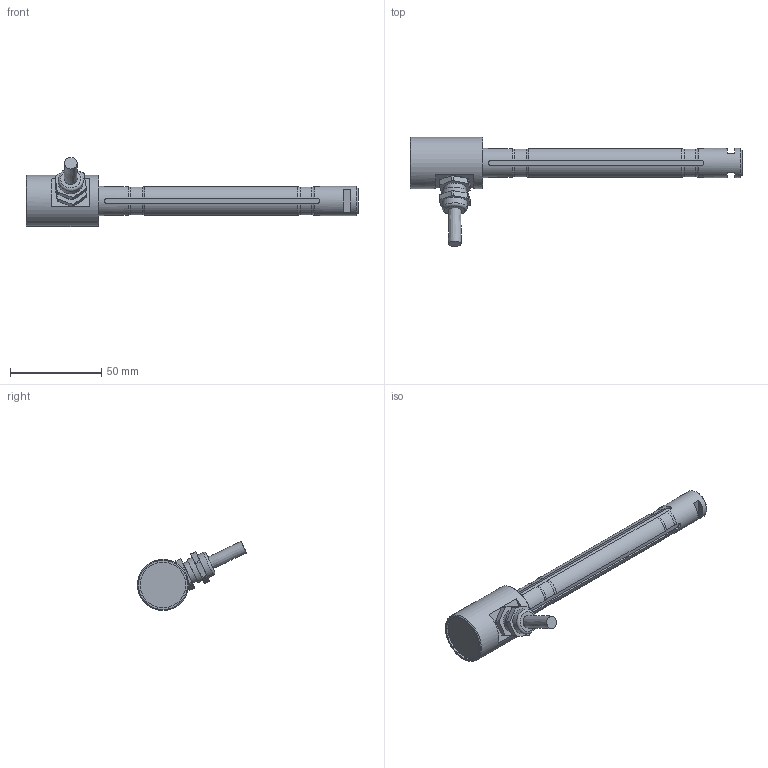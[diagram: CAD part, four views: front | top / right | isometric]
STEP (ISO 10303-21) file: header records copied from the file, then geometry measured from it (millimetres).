
FILE_DESCRIPTION(/* description */ ('Alibre Inc.'),/* implementation_level */ '2;1');
FILE_NAME(/* name */ 'export-82CCA47D-BCFA-439D-84C2-76D7A7B1220B',/* time_stamp */ '2024-04-16T10:53:05+02:00',/* author */ (''),/* organization */ (''),/* preprocessor_version */ 'ST-DEVELOPER v17',/* originating_system */ 'Alibre',/* authorisation */ '');
FILE_SCHEMA (('CONFIG_CONTROL_DESIGN'));
Length unit declared in the file: centimetre
Products named in the file (6): ID_1
Bounding box: 182 x 59.81 x 37.84 mm (x, y, z)
Volume: 51123 mm3; surface area: 16257.4 mm2
Topology: 4 solids, 4 shells, 197 faces, 517 edges, 343 vertices
Faces by surface type: plane 104, cylinder 70, torus 18, cone 4, bspline 1
Full cylindrical faces by diameter (mm): 7 x1, 10.5 x1, 12 x3, 13.7 x1, 14 x1, 14.5 x1, 16 x2, 25 x1, 28 x1
Entity records: 6592 total; most frequent: CARTESIAN_POINT 1589, ORIENTED_EDGE 990, DIRECTION 739, EDGE_CURVE 495, VERTEX_POINT 340, VECTOR 295, LINE 295, AXIS2_PLACEMENT_3D 274
